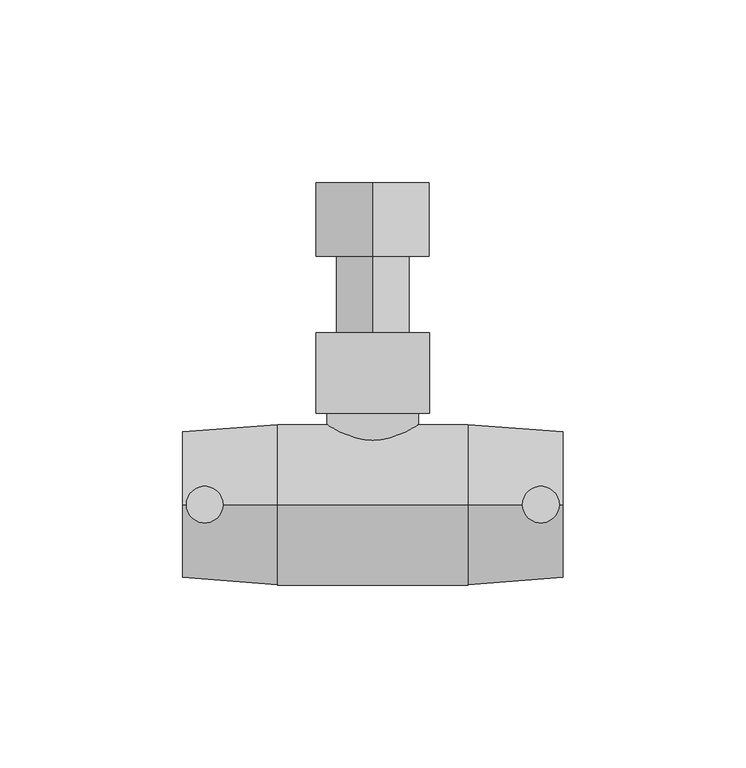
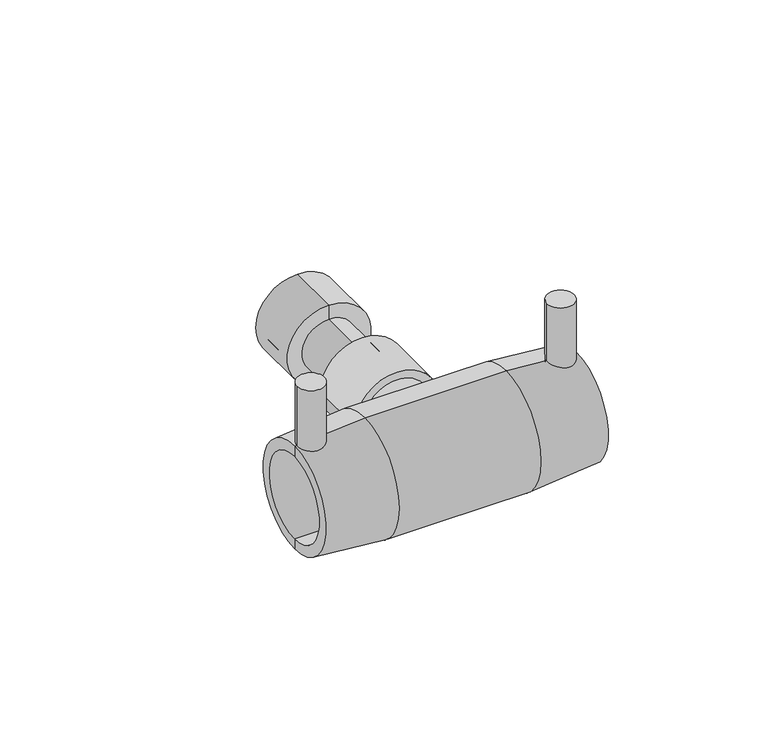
"""IFC4 building model written with IfcOpenShell, lengths in millimetres: pipe fitting geometry, Plumbing_Pipe-Fittings_Plasson_Female-Union-Free-Nut-Transition-Tee_494404 : Plumbing_Pipe-Fittings_Plasson_Female-Union-Free-Nut-Transition-Tee_494404."""

import ifcopenshell
import ifcopenshell.guid

model = None  # the IFC model being written
_history = None  # IfcOwnerHistory: only IFC2X3 demands one
_inside = {}  # id of a spatial element -> (the spatial element, [elements in it])
_under = {}  # id of a project, library or spatial element -> (it, [spatial elements below it])
_declared = {}  # id of a project -> (the project, [libraries it declares])
_typed = {}  # id of a type object -> (the type object, [elements of that type])
_made_of = {}  # id of a material, layer set ... -> (it, [elements and type objects made of it])


def new_model(schema):
    """Start an empty IFC model of exactly this schema.

    Asked for "IFC4X3", IfcOpenShell would pick the latest addendum, in which some entities
    have other attributes; the version numbers below select the first issue.
    IFC2X3 requires an IfcOwnerHistory on every rooted entity: one is made here for all.
    """
    global model, _history
    if schema == "IFC4X3":
        model = ifcopenshell.file(schema_version=(4, 3, 0, 0))
    else:
        model = ifcopenshell.file(schema=schema)
    _inside.clear()
    _under.clear()
    _declared.clear()
    _typed.clear()
    _made_of.clear()
    _history = None
    if model.schema == "IFC2X3":
        org = make("IfcOrganization", Name="unknown")
        user = make(
            "IfcPersonAndOrganization",
            ThePerson=make("IfcPerson", FamilyName="unknown"),
            TheOrganization=org,
        )
        app = make(
            "IfcApplication",
            ApplicationDeveloper=org,
            Version="unknown",
            ApplicationFullName="unknown",
            ApplicationIdentifier="unknown",
        )
        _history = make(
            "IfcOwnerHistory",
            OwningUser=user,
            OwningApplication=app,
            ChangeAction="ADDED",
            CreationDate=0,
        )
    return model


def make(cls, **values):
    """One entity of the class cls with the attributes given. An attribute that is None is left unset."""
    return model.create_entity(
        cls, **{name: value for name, value in values.items() if value is not None}
    )


def rooted(cls, **values):
    """An entity with a GlobalId (a new one), such as an element, a storey or a relation."""
    return make(cls, GlobalId=ifcopenshell.guid.new(), OwnerHistory=_history, **values)


def si_unit(unit_type, name, prefix=None):
    """IfcSIUnit, for example si_unit("LENGTHUNIT", "METRE", prefix="MILLI")."""
    return make("IfcSIUnit", UnitType=unit_type, Prefix=prefix, Name=name)


def assignment(units):
    """IfcUnitAssignment: the units of a project."""
    return None if units is None else make("IfcUnitAssignment", Units=units)


def point(xyz):
    """IfcCartesianPoint."""
    return None if xyz is None else make("IfcCartesianPoint", Coordinates=xyz)


def direction(xyz):
    """IfcDirection."""
    return None if xyz is None else make("IfcDirection", DirectionRatios=xyz)


def frame(location, z_axis=None, x_axis=None):
    """IfcAxis2Placement3D, a coordinate frame: its origin and axes. An axis left out is left unset."""
    return make(
        "IfcAxis2Placement3D",
        Location=point(location),
        Axis=direction(z_axis),
        RefDirection=direction(x_axis),
    )


def frame_2d(location, x_axis=None):
    """IfcAxis2Placement2D, a coordinate frame in the plane: its origin and x axis."""
    return make(
        "IfcAxis2Placement2D", Location=point(location), RefDirection=direction(x_axis)
    )


def origin():
    """The frame at (0, 0, 0) with its axes left unset."""
    return frame((0.0, 0.0, 0.0))


def place(relative_to, where):
    """IfcLocalPlacement: puts the frame where relative to a parent placement (None: the world)."""
    return make(
        "IfcLocalPlacement", PlacementRelTo=relative_to, RelativePlacement=where
    )


def context(
    kind, dimensions, precision=None, world=None, true_north=None, identifier=None
):
    """IfcGeometricRepresentationContext, for example the 3D "Model" context."""
    return make(
        "IfcGeometricRepresentationContext",
        ContextIdentifier=identifier,
        ContextType=kind,
        CoordinateSpaceDimension=dimensions,
        Precision=precision,
        WorldCoordinateSystem=world,
        TrueNorth=true_north,
    )


def project(units=None, contexts=None):
    """IfcProject with its units and contexts."""
    return rooted(
        "IfcProject",
        Name="project",
        RepresentationContexts=contexts,
        UnitsInContext=assignment(units),
    )


def spatial(cls, under=None, at=None, **own):
    """A site, building, storey or space (cls), placed at a placement, below another one or the project."""
    s = rooted(cls, ObjectPlacement=at, **own)
    if under is not None:
        _under.setdefault(under.id(), (under, []))[1].append(s)
    return s


def polyline(points):
    """IfcPolyline through the points."""
    return make("IfcPolyline", Points=[point(p) for p in points])


def circle_curve(where, radius):
    """IfcCircle in the frame where."""
    return make("IfcCircle", Position=where, Radius=radius)


def trimmed(basis, trim1, trim2, sense, master):
    """IfcTrimmedCurve: the piece of a basis curve between two trims."""
    return make(
        "IfcTrimmedCurve",
        BasisCurve=basis,
        Trim1=trim1,
        Trim2=trim2,
        SenseAgreement=sense,
        MasterRepresentation=master,
    )


def segment(curve, same_sense, transition):
    """IfcCompositeCurveSegment."""
    return make(
        "IfcCompositeCurveSegment",
        Transition=transition,
        SameSense=same_sense,
        ParentCurve=curve,
    )


def composite_curve(segments, self_intersect=None):
    """IfcCompositeCurve: segments joined end to end."""
    return make("IfcCompositeCurve", Segments=segments, SelfIntersect=self_intersect)


def outline(outer, holes=None, kind="AREA"):
    """IfcArbitraryClosedProfileDef: a profile drawn as a closed curve; with holes, ...WithVoids."""
    if holes is None:
        return make("IfcArbitraryClosedProfileDef", ProfileType=kind, OuterCurve=outer)
    return make(
        "IfcArbitraryProfileDefWithVoids",
        ProfileType=kind,
        OuterCurve=outer,
        InnerCurves=holes,
    )


def extrude(swept, where, along, depth):
    """IfcExtrudedAreaSolid: the profile swept, set in the frame where, extruded along a direction by depth."""
    return make(
        "IfcExtrudedAreaSolid",
        SweptArea=swept,
        Position=where,
        ExtrudedDirection=direction(along),
        Depth=depth,
    )


def shape(context_of_items, identifier, shape_type, items):
    """IfcShapeRepresentation: the items that make up one representation, for example the "Body"."""
    return make(
        "IfcShapeRepresentation",
        ContextOfItems=context_of_items,
        RepresentationIdentifier=identifier,
        RepresentationType=shape_type,
        Items=items,
    )


def source(mapping_origin, context_of_items, identifier, shape_type, items):
    """IfcRepresentationMap: a shape defined once, which mapped items show again and again."""
    return make(
        "IfcRepresentationMap",
        MappingOrigin=mapping_origin,
        MappedRepresentation=shape(context_of_items, identifier, shape_type, items),
    )


def transform(
    local_origin,
    x_axis=None,
    y_axis=None,
    z_axis=None,
    scale=None,
    scale2=None,
    scale3=None,
    uniform=True,
):
    """IfcCartesianTransformationOperator3D, or its non-uniform kind. x_axis, y_axis, z_axis: its Axis1, 2, 3."""
    if uniform:
        return make(
            "IfcCartesianTransformationOperator3D",
            Axis1=direction(x_axis),
            Axis2=direction(y_axis),
            LocalOrigin=point(local_origin),
            Scale=scale,
            Axis3=direction(z_axis),
        )
    return make(
        "IfcCartesianTransformationOperator3DnonUniform",
        Axis1=direction(x_axis),
        Axis2=direction(y_axis),
        LocalOrigin=point(local_origin),
        Scale=scale,
        Axis3=direction(z_axis),
        Scale2=scale2,
        Scale3=scale3,
    )


def mapped(mapping_source, mapping_target):
    """IfcMappedItem: shows the shape of a source again, moved by a transform."""
    return make(
        "IfcMappedItem", MappingSource=mapping_source, MappingTarget=mapping_target
    )


def made_of(thing, what):
    """Note that an element or type object is made of a material, layer set ...; save() writes the relation."""
    if what is not None:
        _made_of.setdefault(what.id(), (what, []))[1].append(thing)
    return thing


def element(
    cls,
    number,
    at=None,
    inside=None,
    cuts=None,
    type_object=None,
    material=None,
    context=None,
    identifier="Body",
    shape_type=None,
    held_by="IfcProductDefinitionShape",
    body=None,
    shapes=None,
    **own,
):
    """One element of the class cls, such as IfcWall. Its Tag is "e" and its number.

    at: its placement. inside: the storey or other place that contains it. cuts: it is an
    opening in that element (IfcRelVoidsElement). A single representation is given by context,
    identifier, shape_type and body (its items); several are given by shapes. held_by: the class
    of the entity that holds the representations. save() writes the other relations.
    """
    e = rooted(cls, Tag="e%d" % number, ObjectPlacement=at, **own)
    if body is not None:
        shapes = [shape(context, identifier, shape_type, body)]
    if shapes is not None:
        e.Representation = make(held_by, Representations=shapes)
    if inside is not None:
        _inside.setdefault(inside.id(), (inside, []))[1].append(e)
    if cuts is not None:
        rooted(
            "IfcRelVoidsElement", RelatingBuildingElement=cuts, RelatedOpeningElement=e
        )
    if type_object is not None:
        _typed.setdefault(type_object.id(), (type_object, []))[1].append(e)
    return made_of(e, material)


def aggregate(whole, parts):
    """IfcRelAggregates: a whole, such as a stair, and the parts it consists of."""
    return rooted("IfcRelAggregates", RelatingObject=whole, RelatedObjects=parts)


def save(model, path):
    """Write the relations noted so far, then the file.

    IfcRelAggregates (storeys below a building ...), IfcRelContainedInSpatialStructure (elements
    in a storey), IfcRelDefinesByType, IfcRelAssociatesMaterial and IfcRelDeclares: one each for
    every whole, place, type object, material and project.
    """
    for whole, parts in _under.values():
        aggregate(whole, parts)
    for where, things in _inside.values():
        rooted(
            "IfcRelContainedInSpatialStructure",
            RelatedElements=things,
            RelatingStructure=where,
        )
    for kind, things in _typed.values():
        rooted("IfcRelDefinesByType", RelatedObjects=things, RelatingType=kind)
    for what, things in _made_of.values():
        rooted("IfcRelAssociatesMaterial", RelatedObjects=things, RelatingMaterial=what)
    for by, libraries in _declared.values():
        rooted("IfcRelDeclares", RelatingContext=by, RelatedDefinitions=libraries)
    model.write(path)


def plane_surface(at):
    """IfcPlane: the flat surface through the origin of the frame at, square to its z axis."""
    return make("IfcPlane", Position=at)


def cylinder_surface(at, radius):
    """IfcCylindricalSurface: all points at the distance radius from the z axis of the frame at."""
    return make("IfcCylindricalSurface", Position=at, Radius=radius)


def revolved_surface(curve, axis_point, axis_direction):
    """IfcSurfaceOfRevolution: the curve turned about the line through axis_point along axis_direction."""
    return make(
        "IfcSurfaceOfRevolution",
        SweptCurve=make("IfcArbitraryOpenProfileDef", ProfileType="CURVE", Curve=curve),
        AxisPosition=make("IfcAxis1Placement", Location=point(axis_point), Axis=direction(axis_direction)),
    )


def advanced_brep(points, edges, surfaces, faces):
    """IfcAdvancedBrep: a solid bounded by faces that lie on surfaces and meet in shared edges.

    An edge is (start, end): straight between two places in points (the first is 0);
    or (start, end, curve); or (start, end, curve, False) where it runs against its curve.
    A face is (place in surfaces, loops), or (place, loops, False) where it looks against
    its surface's normal. A loop lists edges by number (the first is 1), with a minus sign
    where the edge is run from its end to its start. The first loop is the outer one.
    """
    corners = [point(p) for p in points]
    vertices = [make("IfcVertexPoint", VertexGeometry=c) for c in corners]
    made = []
    for start, end, *more in edges:
        made.append(
            make(
                "IfcEdgeCurve",
                EdgeStart=vertices[start],
                EdgeEnd=vertices[end],
                EdgeGeometry=more[0] if more else make("IfcPolyline", Points=[corners[start], corners[end]]),
                SameSense=more[1] if len(more) > 1 else True,
            )
        )
    hull = []
    for where, loops, *sense in faces:
        bounds = []
        for j, loop in enumerate(loops):
            ring = [make("IfcOrientedEdge", EdgeElement=made[abs(k) - 1], Orientation=k > 0) for k in loop]
            bounds.append(
                make(
                    "IfcFaceOuterBound" if j == 0 else "IfcFaceBound",
                    Bound=make("IfcEdgeLoop", EdgeList=ring),
                    Orientation=True,
                )
            )
        hull.append(make("IfcAdvancedFace", Bounds=bounds, FaceSurface=surfaces[where], SameSense=sense[0] if sense else True))
    return make("IfcAdvancedBrep", Outer=make("IfcClosedShell", CfsFaces=hull))


def pipe_fitting_cfaffc8d(model_context):
    return source(origin(), model_context, "Body", "SolidModel", [
        advanced_brep(
        [(0.0, 68.0, -7.0), (0.0, 68.0, 7.0), (0.0, 68.0, 10.0), (0.0, 68.0, -10.0), (0.0, 29.0, -7.0), (0.0, 29.0, 7.0), (0.0, 29.0, -10.0), (0.0, 29.0, 10.0)],
        [
            (0, 1, circle_curve(frame((0.0, 68.0, 0.0), z_axis=(0.0, -1.0, 0.0), x_axis=(0.0, 0.0, 1.0)), 7.0)),
            (1, 2),
            (2, 3, circle_curve(frame((0.0, 68.0, 0.0), z_axis=(0.0, 1.0, 0.0), x_axis=(0.0, 0.0, 1.0)), 10.0)),
            (3, 0),
            (1, 0, circle_curve(frame((0.0, 68.0, 0.0), z_axis=(0.0, -1.0, 0.0), x_axis=(0.0, 0.0, 1.0)), 7.0)),
            (3, 2, circle_curve(frame((0.0, 68.0, 0.0), z_axis=(0.0, 1.0, 0.0), x_axis=(0.0, 0.0, 1.0)), 10.0)),
            (4, 5, circle_curve(frame((0.0, 29.0, 0.0), z_axis=(0.0, -1.0, 0.0), x_axis=(0.0, 0.0, 1.0)), 7.0)),
            (5, 1),
            (0, 4),
            (5, 4, circle_curve(frame((0.0, 29.0, 0.0), z_axis=(0.0, -1.0, 0.0), x_axis=(0.0, 0.0, 1.0)), 7.0)),
            (6, 7, circle_curve(frame((0.0, 29.0, 0.0), z_axis=(0.0, -1.0, 0.0), x_axis=(0.0, 0.0, 1.0)), 10.0)),
            (7, 5),
            (4, 6),
            (7, 6, circle_curve(frame((0.0, 29.0, 0.0), z_axis=(0.0, -1.0, 0.0), x_axis=(0.0, 0.0, 1.0)), 10.0)),
            (2, 7),
            (6, 3),
        ],
        [
            plane_surface(frame((0.0, 68.0, 0.0), z_axis=(0.0, 1.0, 0.0), x_axis=(0.0, 0.0, 1.0))),
            revolved_surface(polyline([(0.0, 68.0, 7.0), (0.0, 28.999999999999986, 7.0)]), (0.0, 68.0, 0.0), (0.0, 1.0000000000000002, 0.0)),
            plane_surface(frame((0.0, 29.0, 0.0), z_axis=(0.0, -1.0, 0.0), x_axis=(0.0, 0.0, 1.0))),
            cylinder_surface(frame((0.0, 68.0, 0.0), z_axis=(0.0, 1.0000000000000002, 0.0), x_axis=(0.0, 0.0, 1.0)), 10.0),
        ],
        [
            (0, [[1, 2, 3, 4]]),
            (0, [[5, -4, 6, -2]]),
            (1, [[7, 8, -1, 9]]),
            (1, [[10, -9, -5, -8]]),
            (2, [[11, 12, -7, 13]]),
            (2, [[14, -13, -10, -12]]),
            (3, [[-3, 15, -11, 16]]),
            (3, [[-6, -16, -14, -15]]),
        ],
    ),
        advanced_brep(
        [(0.0, 68.0, -8.75), (0.0, 68.0, 8.75), (0.0, 74.6666667, 8.75), (0.0, 74.6666667, -8.75), (0.0, 68.0, -15.5), (0.0, 68.0, 15.5), (0.0, 88.0, -15.5), (0.0, 88.0, 15.5), (0.0, 88.0, -12.5), (0.0, 88.0, 12.5), (0.0, 74.6666667, -12.5), (0.0, 74.6666667, 12.5)],
        [
            (0, 1, circle_curve(frame((0.0, 68.0, 0.0), z_axis=(0.0, -1.0, 0.0), x_axis=(0.0, 0.0, 1.0)), 8.75)),
            (1, 2),
            (2, 3, circle_curve(frame((0.0, 74.6666667, 0.0), z_axis=(0.0, 1.0, 0.0), x_axis=(0.0, 0.0, 1.0)), 8.75)),
            (3, 0),
            (1, 0, circle_curve(frame((0.0, 68.0, 0.0), z_axis=(0.0, -1.0, 0.0), x_axis=(0.0, 0.0, 1.0)), 8.75)),
            (3, 2, circle_curve(frame((0.0, 74.6666667, 0.0), z_axis=(0.0, 1.0, 0.0), x_axis=(0.0, 0.0, 1.0)), 8.75)),
            (4, 5, circle_curve(frame((0.0, 68.0, 0.0), z_axis=(0.0, -1.0, 0.0), x_axis=(0.0, 0.0, 1.0)), 15.5)),
            (5, 1),
            (0, 4),
            (5, 4, circle_curve(frame((0.0, 68.0, 0.0), z_axis=(0.0, -1.0, 0.0), x_axis=(0.0, 0.0, 1.0)), 15.5)),
            (6, 7, circle_curve(frame((0.0, 88.0, 0.0), z_axis=(0.0, -1.0, 0.0), x_axis=(0.0, 0.0, 1.0)), 15.5)),
            (7, 5),
            (4, 6),
            (7, 6, circle_curve(frame((0.0, 88.0, 0.0), z_axis=(0.0, -1.0, 0.0), x_axis=(0.0, 0.0, 1.0)), 15.5)),
            (8, 9, circle_curve(frame((0.0, 88.0, 0.0), z_axis=(0.0, -1.0, 0.0), x_axis=(0.0, 0.0, 1.0)), 12.5)),
            (9, 7),
            (6, 8),
            (9, 8, circle_curve(frame((0.0, 88.0, 0.0), z_axis=(0.0, -1.0, 0.0), x_axis=(0.0, 0.0, 1.0)), 12.5)),
            (10, 11, circle_curve(frame((0.0, 74.6666667, 0.0), z_axis=(0.0, -1.0, 0.0), x_axis=(0.0, 0.0, 1.0)), 12.5)),
            (11, 9),
            (8, 10),
            (11, 10, circle_curve(frame((0.0, 74.6666667, 0.0), z_axis=(0.0, -1.0, 0.0), x_axis=(0.0, 0.0, 1.0)), 12.5)),
            (2, 11),
            (10, 3),
        ],
        [
            revolved_surface(polyline([(0.0, 74.6666667, 8.75), (0.0, 68.0, 8.75)]), (0.0, 74.6666667, 0.0), (0.0, 1.0000000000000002, 0.0)),
            plane_surface(frame((0.0, 68.0, 0.0), z_axis=(0.0, -1.0, 0.0), x_axis=(0.0, 0.0, 1.0))),
            cylinder_surface(frame((0.0, 74.6666667, 0.0), z_axis=(0.0, 1.0000000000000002, 0.0), x_axis=(0.0, 0.0, 1.0)), 15.5),
            plane_surface(frame((0.0, 88.0, 0.0), z_axis=(0.0, 1.0, 0.0), x_axis=(0.0, 0.0, 1.0))),
            revolved_surface(polyline([(0.0, 88.0, 12.5), (0.0, 74.6666667, 12.5)]), (0.0, 74.6666667, 0.0), (0.0, 1.0000000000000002, 0.0)),
            plane_surface(frame((0.0, 74.6666667, 0.0), z_axis=(0.0, 1.0, 0.0), x_axis=(0.0, 0.0, 1.0))),
        ],
        [
            (0, [[1, 2, 3, 4]]),
            (0, [[5, -4, 6, -2]]),
            (1, [[7, 8, -1, 9]]),
            (1, [[10, -9, -5, -8]]),
            (2, [[11, 12, -7, 13]]),
            (2, [[14, -13, -10, -12]]),
            (3, [[15, 16, -11, 17]]),
            (3, [[18, -17, -14, -16]]),
            (4, [[19, 20, -15, 21]]),
            (4, [[22, -21, -18, -20]]),
            (5, [[-3, 23, -19, 24]]),
            (5, [[-6, -24, -22, -23]]),
        ],
    ),
        advanced_brep(
        [(15.5, 47.0, 0.0), (-15.5, 47.0, 0.0), (-9.9696689, 47.0, 0.0), (9.9696689, 47.0, 0.0), (15.5, 25.0, 0.0), (-15.5, 25.0, 0.0), (12.5, 25.0, 0.0), (-12.5, 25.0, 0.0), (12.5, 44.0, 0.0), (-12.5, 44.0, 0.0), (9.9696689, 44.0, 0.0), (-9.9696689, 44.0, 0.0)],
        [
            (0, 1, circle_curve(frame((0.0, 47.0, 0.0), z_axis=(0.0, 1.0, 0.0), x_axis=(-1.0, 0.0, 0.0)), 15.5)),
            (1, 2),
            (2, 3, circle_curve(frame((0.0, 47.0, 0.0), z_axis=(0.0, -1.0, 0.0), x_axis=(-1.0, 0.0, 0.0)), 9.9696689)),
            (3, 0),
            (1, 0, circle_curve(frame((0.0, 47.0, 0.0), z_axis=(0.0, 1.0, 0.0), x_axis=(-1.0, 0.0, 0.0)), 15.5)),
            (3, 2, circle_curve(frame((0.0, 47.0, 0.0), z_axis=(0.0, -1.0, 0.0), x_axis=(-1.0, 0.0, 0.0)), 9.9696689)),
            (4, 5, circle_curve(frame((0.0, 25.0, 0.0), z_axis=(0.0, 1.0, 0.0), x_axis=(-1.0, 0.0, 0.0)), 15.5)),
            (5, 1),
            (0, 4),
            (5, 4, circle_curve(frame((0.0, 25.0, 0.0), z_axis=(0.0, 1.0, 0.0), x_axis=(-1.0, 0.0, 0.0)), 15.5)),
            (6, 7, circle_curve(frame((0.0, 25.0, 0.0), z_axis=(0.0, 1.0, 0.0), x_axis=(-1.0, 0.0, 0.0)), 12.5)),
            (7, 5),
            (4, 6),
            (7, 6, circle_curve(frame((0.0, 25.0, 0.0), z_axis=(0.0, 1.0, 0.0), x_axis=(-1.0, 0.0, 0.0)), 12.5)),
            (8, 9, circle_curve(frame((0.0, 44.0, 0.0), z_axis=(0.0, 1.0, 0.0), x_axis=(-1.0, 0.0, 0.0)), 12.5)),
            (9, 7),
            (6, 8),
            (9, 8, circle_curve(frame((0.0, 44.0, 0.0), z_axis=(0.0, 1.0, 0.0), x_axis=(-1.0, 0.0, 0.0)), 12.5)),
            (10, 11, circle_curve(frame((0.0, 44.0, 0.0), z_axis=(0.0, 1.0, 0.0), x_axis=(-1.0, 0.0, 0.0)), 9.9696689)),
            (11, 9),
            (8, 10),
            (11, 10, circle_curve(frame((0.0, 44.0, 0.0), z_axis=(0.0, 1.0, 0.0), x_axis=(-1.0, 0.0, 0.0)), 9.9696689)),
            (2, 11),
            (10, 3),
        ],
        [
            plane_surface(frame((0.0, 47.0, 0.0), z_axis=(0.0, 1.0, 0.0), x_axis=(-1.0, 0.0, 0.0))),
            cylinder_surface(frame((0.0, 44.0, 0.0), z_axis=(0.0, -1.0, 0.0), x_axis=(-1.0, 0.0, 0.0)), 15.5),
            plane_surface(frame((0.0, 25.0, 0.0), z_axis=(0.0, -1.0, 0.0), x_axis=(-1.0, 0.0, 0.0))),
            revolved_surface(polyline([(-12.5, 25.0, 0.0), (-12.5, 44.0, 0.0)]), (0.0, 44.0, 0.0), (0.0, -1.0, 0.0)),
            plane_surface(frame((0.0, 44.0, 0.0), z_axis=(0.0, -1.0, 0.0), x_axis=(-1.0, 0.0, 0.0))),
            revolved_surface(polyline([(-9.9696689, 44.0, 0.0), (-9.9696689, 47.0, 0.0)]), (0.0, 44.0, 0.0), (0.0, -1.0, 0.0)),
        ],
        [
            (0, [[1, 2, 3, 4]]),
            (0, [[5, -4, 6, -2]]),
            (1, [[7, 8, -1, 9]]),
            (1, [[10, -9, -5, -8]]),
            (2, [[11, 12, -7, 13]]),
            (2, [[14, -13, -10, -12]]),
            (3, [[15, 16, -11, 17]]),
            (3, [[18, -17, -14, -16]]),
            (4, [[19, 20, -15, 21]]),
            (4, [[22, -21, -18, -20]]),
            (5, [[-3, 23, -19, 24]]),
            (5, [[-6, -24, -22, -23]]),
        ],
    ),
        advanced_brep(
        [(12.5, 0.0, 0.0), (-12.5, 0.0, 0.0), (-12.5, 44.0, 0.0), (12.5, 44.0, 0.0), (0.0, 0.0, 0.0), (0.0, 44.0, 0.0)],
        [
            (0, 1, circle_curve(frame((0.0, 0.0, 0.0), z_axis=(0.0, 1.0, 0.0), x_axis=(-1.0, 0.0, 0.0)), 12.5)),
            (1, 2),
            (2, 3, circle_curve(frame((0.0, 44.0, 0.0), z_axis=(0.0, -1.0, 0.0), x_axis=(-1.0, 0.0, 0.0)), 12.5)),
            (3, 0),
            (1, 0, circle_curve(frame((0.0, 0.0, 0.0), z_axis=(0.0, 1.0, 0.0), x_axis=(-1.0, 0.0, 0.0)), 12.5)),
            (3, 2, circle_curve(frame((0.0, 44.0, 0.0), z_axis=(0.0, -1.0, 0.0), x_axis=(-1.0, 0.0, 0.0)), 12.5)),
            (4, 1),
            (0, 4),
            (2, 5),
            (5, 3),
        ],
        [
            cylinder_surface(frame((0.0, 88.0, 0.0), z_axis=(0.0, -1.0, 0.0), x_axis=(-1.0, 0.0, 0.0)), 12.5),
            plane_surface(frame((0.0, 0.0, 0.0), z_axis=(0.0, -1.0, 0.0), x_axis=(-1.0, 0.0, 0.0))),
            plane_surface(frame((0.0, 44.0, 0.0), z_axis=(0.0, 1.0, 0.0), x_axis=(-1.0, 0.0, 0.0))),
        ],
        [
            (0, [[1, 2, 3, 4]]),
            (0, [[5, -4, 6, -2]]),
            (1, [[7, -1, 8]]),
            (1, [[-8, -5, -7]]),
            (2, [[-3, 9, 10]]),
            (2, [[-6, -10, -9]]),
        ],
    ),
        extrude(outline(composite_curve([segment(trimmed(circle_curve(frame_2d((-46.0, 0.0)), 5.0), [point((-51.0, 0.0))], [point((-41.0, 0.0))], False, "CARTESIAN"), True, "CONTINUOUS"), segment(trimmed(circle_curve(frame_2d((-46.0, 0.0)), 5.0), [point((-41.0, 0.0))], [point((-51.0, 0.0))], False, "CARTESIAN"), True, "CONTINUOUS")], self_intersect=False)), frame((0.0, 0.0, 19.0), z_axis=(0.0, 0.0, 1.0), x_axis=(1.0, 0.0, 0.0)), (0.0, 0.0, 1.0), 24.0),
        extrude(outline(composite_curve([segment(trimmed(circle_curve(frame_2d((46.0, 0.0)), 5.0), [point((41.0, 0.0))], [point((51.0, 0.0))], False, "CARTESIAN"), True, "CONTINUOUS"), segment(trimmed(circle_curve(frame_2d((46.0, 0.0)), 5.0), [point((51.0, 0.0))], [point((41.0, 0.0))], False, "CARTESIAN"), True, "CONTINUOUS")], self_intersect=False)), frame((0.0, 0.0, 19.0), z_axis=(0.0, 0.0, 1.0), x_axis=(1.0, 0.0, 0.0)), (0.0, 0.0, 1.0), 24.0),
        advanced_brep(
        [(-13.0, 0.0, -16.0), (-13.0, 0.0, 16.0), (-52.0, 0.0, 16.0), (-52.0, 0.0, -16.0), (52.0, 0.0, -20.0), (52.0, 0.0, 20.0), (52.0, 0.0, 16.0), (52.0, 0.0, -16.0), (-26.0, 0.0, -22.0), (-26.0, 0.0, 22.0), (26.0, 0.0, 22.0), (26.0, 0.0, -22.0), (-52.0, 0.0, 20.0), (-52.0, 0.0, -20.0), (-13.0, 0.0, 0.0), (13.0, 0.0, -16.0), (13.0, 0.0, 16.0), (13.0, 0.0, 0.0)],
        [
            (0, 1, circle_curve(frame((-13.0, 0.0, 0.0), z_axis=(1.0, 0.0, 0.0), x_axis=(0.0, 0.0, 1.0)), 16.0)),
            (1, 2),
            (2, 3, circle_curve(frame((-52.0, 0.0, 0.0), z_axis=(-1.0, 0.0, 0.0), x_axis=(0.0, 0.0, 1.0)), 16.0)),
            (3, 0),
            (1, 0, circle_curve(frame((-13.0, 0.0, 0.0), z_axis=(1.0, 0.0, 0.0), x_axis=(0.0, 0.0, 1.0)), 16.0)),
            (3, 2, circle_curve(frame((-52.0, 0.0, 0.0), z_axis=(-1.0, 0.0, 0.0), x_axis=(0.0, 0.0, 1.0)), 16.0)),
            (4, 5, circle_curve(frame((52.0, 0.0, 0.0), z_axis=(1.0, 0.0, 0.0), x_axis=(0.0, 0.0, 1.0)), 20.0)),
            (5, 6),
            (6, 7, circle_curve(frame((52.0, 0.0, 0.0), z_axis=(-1.0, 0.0, 0.0), x_axis=(0.0, 0.0, 1.0)), 16.0)),
            (7, 4),
            (5, 4, circle_curve(frame((52.0, 0.0, 0.0), z_axis=(1.0, 0.0, 0.0), x_axis=(0.0, 0.0, 1.0)), 20.0)),
            (7, 6, circle_curve(frame((52.0, 0.0, 0.0), z_axis=(-1.0, 0.0, 0.0), x_axis=(0.0, 0.0, 1.0)), 16.0)),
            (8, 9, circle_curve(frame((-26.0, 0.0, 0.0), z_axis=(1.0, 0.0, 0.0), x_axis=(0.0, 0.0, 1.0)), 22.0)),
            (9, 10),
            (10, 11, circle_curve(frame((26.0, 0.0, 0.0), z_axis=(-1.0, 0.0, 0.0), x_axis=(0.0, 0.0, 1.0)), 22.0)),
            (11, 8),
            (9, 8, circle_curve(frame((-26.0, 0.0, 0.0), z_axis=(1.0, 0.0, 0.0), x_axis=(0.0, 0.0, 1.0)), 22.0)),
            (11, 10, circle_curve(frame((26.0, 0.0, 0.0), z_axis=(-1.0, 0.0, 0.0), x_axis=(0.0, 0.0, 1.0)), 22.0)),
            (2, 12),
            (12, 13, circle_curve(frame((-52.0, 0.0, 0.0), z_axis=(-1.0, 0.0, 0.0), x_axis=(0.0, 0.0, 1.0)), 20.0)),
            (13, 3),
            (13, 12, circle_curve(frame((-52.0, 0.0, 0.0), z_axis=(-1.0, 0.0, 0.0), x_axis=(0.0, 0.0, 1.0)), 20.0)),
            (10, 5),
            (4, 11),
            (12, 9),
            (8, 13),
            (14, 1),
            (0, 14),
            (15, 16, circle_curve(frame((13.0, 0.0, 0.0), z_axis=(1.0, 0.0, 0.0), x_axis=(0.0, 0.0, 1.0)), 16.0)),
            (16, 17),
            (17, 15),
            (16, 15, circle_curve(frame((13.0, 0.0, 0.0), z_axis=(1.0, 0.0, 0.0), x_axis=(0.0, 0.0, 1.0)), 16.0)),
            (6, 16),
            (15, 7),
        ],
        [
            revolved_surface(polyline([(-52.0, 0.0, 16.0), (-13.0, 0.0, 16.0)]), (-52.0, 0.0, 0.0), (-1.0, 0.0, 0.0)),
            plane_surface(frame((52.0, 0.0, 0.0), z_axis=(1.0, 0.0, 0.0), x_axis=(0.0, 0.0, 1.0))),
            cylinder_surface(frame((-52.0, 0.0, 0.0), z_axis=(-1.0, 0.0, 0.0), x_axis=(0.0, 0.0, 1.0)), 22.0),
            plane_surface(frame((-52.0, 0.0, 0.0), z_axis=(-1.0, 0.0, 0.0), x_axis=(0.0, 0.0, 1.0))),
            revolved_surface(polyline([(52.0, 0.0, 20.0), (26.0, 0.0, 22.0)]), (-52.0, 0.0, 0.0), (-1.0, 0.0, 0.0)),
            revolved_surface(polyline([(-26.0, 0.0, 22.0), (-52.0, 0.0, 20.0)]), (-52.0, 0.0, 0.0), (-1.0, 0.0, 0.0)),
            plane_surface(frame((-13.0, 0.0, 0.0), z_axis=(-1.0, 0.0, 0.0), x_axis=(0.0, 0.0, 1.0))),
            plane_surface(frame((13.0, 0.0, 0.0), z_axis=(1.0, 0.0, 0.0), x_axis=(0.0, 0.0, 1.0))),
            revolved_surface(polyline([(13.0, 0.0, 16.0), (52.0, 0.0, 16.0)]), (-52.0, 0.0, 0.0), (-1.0, 0.0, 0.0)),
        ],
        [
            (0, [[1, 2, 3, 4]]),
            (0, [[5, -4, 6, -2]]),
            (1, [[7, 8, 9, 10]]),
            (1, [[11, -10, 12, -8]]),
            (2, [[13, 14, 15, 16]]),
            (2, [[17, -16, 18, -14]]),
            (3, [[-3, 19, 20, 21]]),
            (3, [[-6, -21, 22, -19]]),
            (4, [[-15, 23, -7, 24]]),
            (4, [[-18, -24, -11, -23]]),
            (5, [[-20, 25, -13, 26]]),
            (5, [[-22, -26, -17, -25]]),
            (6, [[27, -1, 28]]),
            (6, [[-28, -5, -27]]),
            (7, [[29, 30, 31]]),
            (7, [[32, -31, -30]]),
            (8, [[-9, 33, -29, 34]]),
            (8, [[-12, -34, -32, -33]]),
        ],
    ),
    ])


if __name__ == "__main__":
    model = new_model("IFC4")
    model_context = context("Model", 3, world=origin())
    ifc_project = project(units=[si_unit("LENGTHUNIT", "METRE", prefix="MILLI")], contexts=[model_context])
    site = spatial("IfcSite", under=ifc_project)
    building = spatial("IfcBuilding", under=site)
    placement = place(None, origin())
    pipe_fitting_shape = pipe_fitting_cfaffc8d(model_context)
    element("IfcPipeFitting", 1, ObjectType="Plumbing_Pipe-Fittings_Plasson_Female-Union-Free-Nut-Transition-Tee_494404 : Plumbing_Pipe-Fittings_Plasson_Female-Union-Free-Nut-Transition-Tee_494404", at=placement, inside=building, context=model_context, shape_type="MappedRepresentation", body=[
        mapped(pipe_fitting_shape, transform((0.0, 0.0, 0.0), x_axis=(1.0, 0.0, 0.0), y_axis=(0.0, 1.0, 0.0), z_axis=(0.0, 0.0, 1.0))),
    ])
    save(model, "model.ifc")
